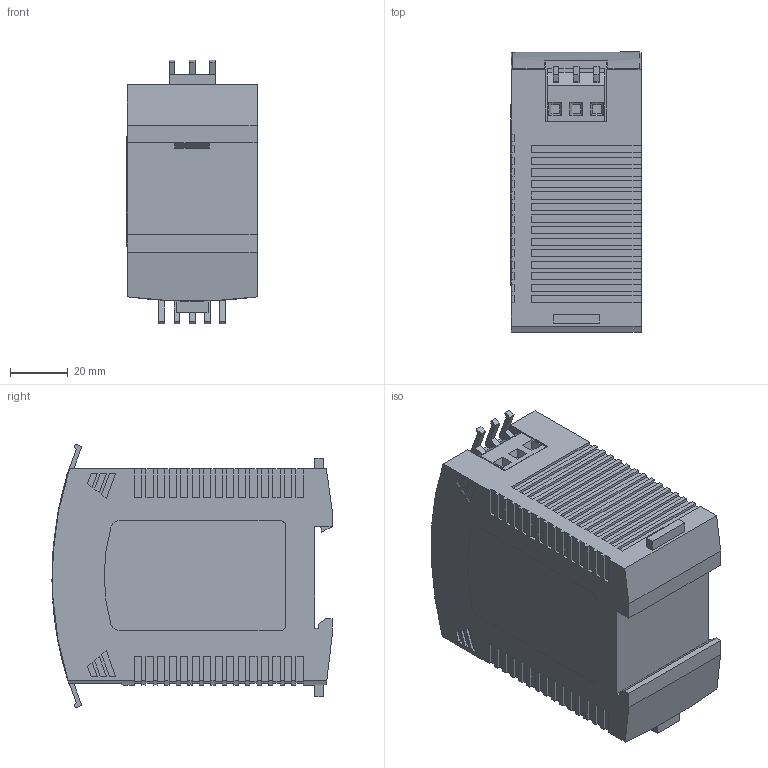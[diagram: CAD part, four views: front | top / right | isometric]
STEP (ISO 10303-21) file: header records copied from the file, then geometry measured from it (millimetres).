
FILE_DESCRIPTION((''),'2;1');
FILE_NAME('1606-XLP72E_SW0001','2009-05-20T',('WJPreisc'),('Rockwell Automation'),'PRO/ENGINEER BY PARAMETRIC TECHNOLOGY CORPORATION, 2004320','PRO/ENGINEER BY PARAMETRIC TECHNOLOGY CORPORATION, 2004320','');
FILE_SCHEMA(('CONFIG_CONTROL_DESIGN'));
Length unit declared in the file: inch
Products named in the file (1): 1606-XLP72E_SW0001
Bounding box: 45.1 x 97.09 x 91.46 mm (x, y, z)
Surface area: 36122.3 mm2 (no closed solid volume)
Topology: 0 solids, 4 shells, 426 faces, 1318 edges, 886 vertices
Faces by surface type: plane 422, cylinder 4
Entity records: 14456 total; most frequent: CARTESIAN_POINT 2675, ORIENTED_EDGE 2478, DIRECTION 2258, EDGE_CURVE 1318, VECTOR 1216, LINE 1216, VERTEX_POINT 886, AXIS2_PLACEMENT_3D 521
